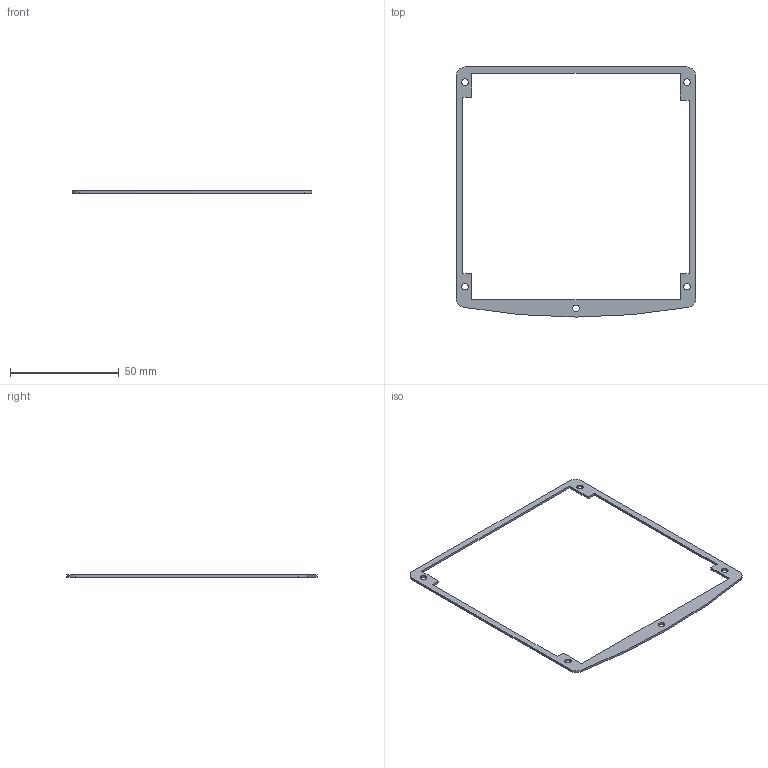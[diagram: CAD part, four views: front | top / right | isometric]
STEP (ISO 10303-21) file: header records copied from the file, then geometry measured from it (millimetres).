
FILE_DESCRIPTION(/* description */ ('STEP AP242','CAx-IF Rec.Pracs.---Representation and Presentation of Product Manufacturing Information (PMI)---4.0---2014-10-13','CAx-IF Rec.Pracs.---3D Tessellated Geometry---0.4---2014-09-14','2;1'),/* implementation_level */ '2;1');
FILE_NAME(/* name */ '676d3ceaa686895630a1f772',/* time_stamp */ '2024-12-26T11:24:27Z',/* author */ (''),/* organization */ (''),/* preprocessor_version */ 'ST-DEVELOPER v20',/* originating_system */ 'ONSHAPE BY PTC INC, 1.191',/* authorisation */ ' ');
FILE_SCHEMA (('AP242_MANAGED_MODEL_BASED_3D_ENGINEERING_MIM_LF { 1 0 10303 442 1 1 4 }'));
Length unit declared in the file: metre
Products named in the file (1): Seal1_2
Bounding box: 110 x 115 x 1 mm (x, y, z)
Volume: 1790.5 mm3; surface area: 4478.9 mm2
Topology: 1 solids, 1 shells, 29 faces, 81 edges, 54 vertices
Faces by surface type: plane 19, cylinder 10
Full cylindrical faces by diameter (mm): 3 x5
Entity records: 956 total; most frequent: CARTESIAN_POINT 160, DIRECTION 156, ORIENTED_EDGE 152, EDGE_CURVE 76, LINE 56, VECTOR 56, VERTEX_POINT 54, AXIS2_PLACEMENT_3D 50
